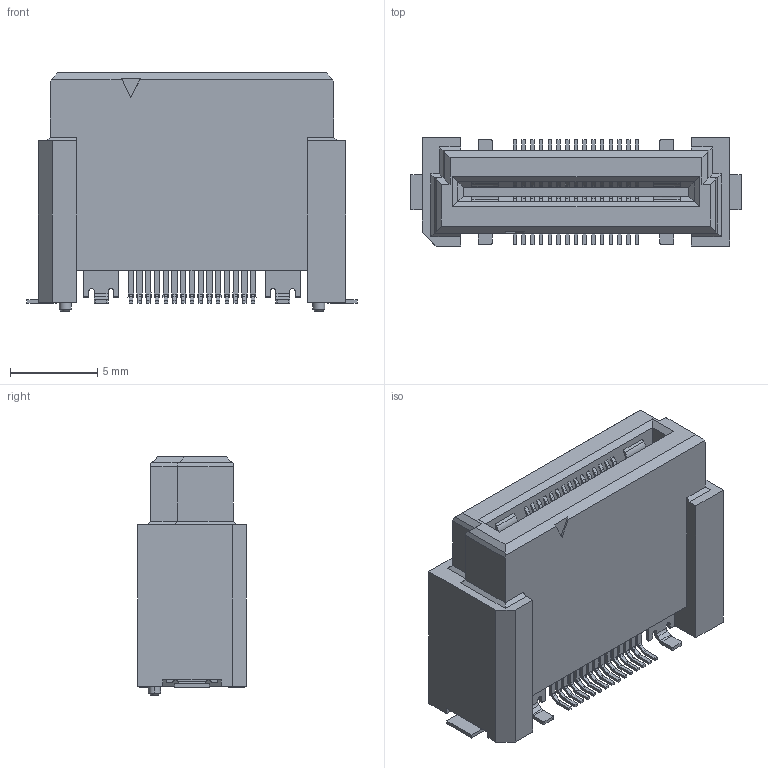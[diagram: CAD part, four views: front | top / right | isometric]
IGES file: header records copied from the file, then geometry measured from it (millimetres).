
Start section: Elysium IGES Interface
Global section: file name: 124HG:\その他\DT関連\DT_CADﾃﾞｰﾀ\DT_3DCAD(客先提出用)\プラグ\DT1XE(電源pin)\-15\DT11E-XXXS-15-T(WEB用)\P3E816_DT11E-030S-15-T.igs; native system: Creo Elements/Direct Modeling 20.6  25-Mar-2023; preprocessor: Creo Element/Direct IGES_3D V2.2; author: Unknown; organization: Unknown; date: 20240313.110516; units: millimetre
Bounding box: 18.9 x 6.2 x 13.63 mm (x, y, z)
Volume: 944.4 mm3; surface area: 1029.5 mm2
Topology: 1 solids, 1 shells, 1175 faces, 3302 edges, 2168 vertices
Faces by surface type: bspline 1175
